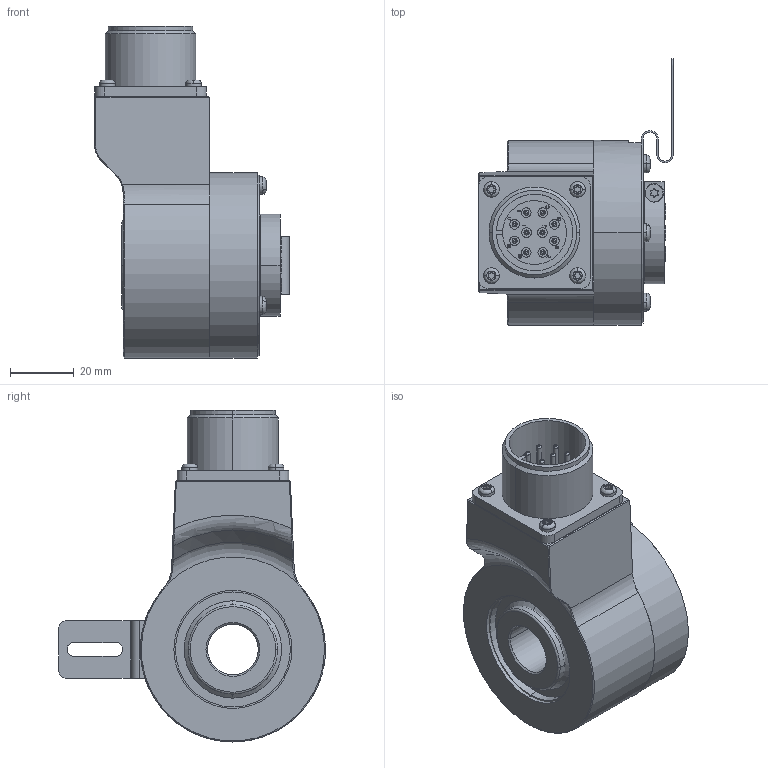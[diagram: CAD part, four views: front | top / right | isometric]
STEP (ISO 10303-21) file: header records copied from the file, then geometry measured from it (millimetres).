
FILE_DESCRIPTION (( 'STEP AP203' ), '1' );
FILE_NAME ('K58I.OXX.XXXXX.XH1554A.XXRCJ.step', '2025-12-03T08:25:12', ( '' ), ( '' ), 'SwSTEP 2.0', 'SolidWorks 2021', '' );
FILE_SCHEMA (( 'CONFIG_CONTROL_DESIGN' ));
Length unit declared in the file: millimetre
Products named in the file (1): K58I.OXX.XXXXX.XH1554A.XXRCJ
Bounding box: 61 x 83.61 x 104 mm (x, y, z)
Volume: 149020 mm3; surface area: 49068.6 mm2
Topology: 7 solids, 7 shells, 681 faces, 1714 edges, 1095 vertices
Faces by surface type: cylinder 297, plane 236, cone 61, bspline 61, torus 26
Entity records: 25516 total; most frequent: CARTESIAN_POINT 9153, ORIENTED_EDGE 3404, DIRECTION 3380, EDGE_CURVE 1702, AXIS2_PLACEMENT_3D 1277, VERTEX_POINT 1095, LINE 826, VECTOR 826
